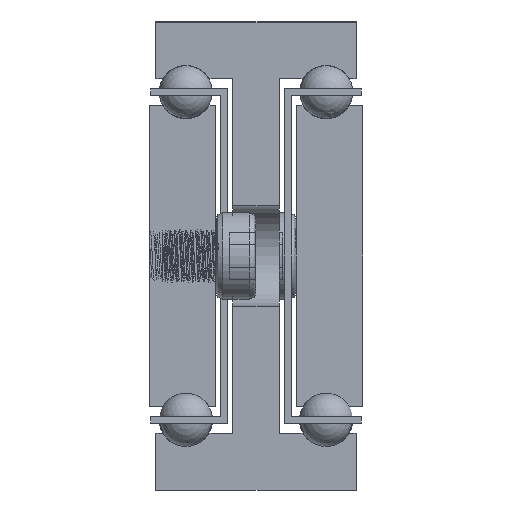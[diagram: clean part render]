
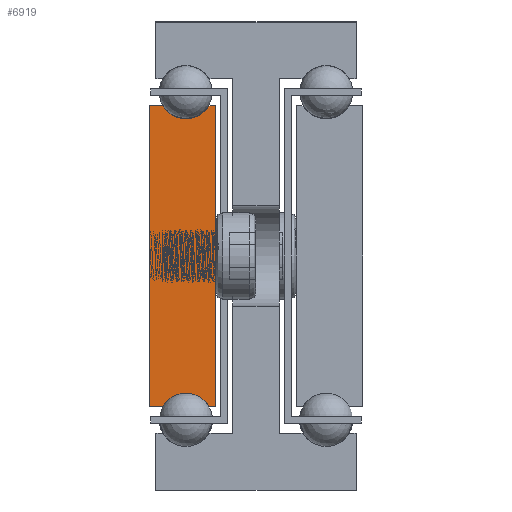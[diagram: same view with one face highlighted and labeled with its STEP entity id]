
A CAD part, front view. The second image highlights one B-rep face of the part: STEP entity #6919.
In plain terms, the highlighted planar face has unit normal (0, -1, 0).
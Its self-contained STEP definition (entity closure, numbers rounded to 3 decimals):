
#1033=PLANE('',#7456);
#1223=FACE_OUTER_BOUND('',#1731,.T.);
#1731=EDGE_LOOP('',(#5440,#5441,#5442,#5443,#5444,#5445,#5446,#5447));
#2542=LINE('',#97911,#2754);
#2545=LINE('',#97917,#2757);
#2549=LINE('',#97929,#2761);
#2552=LINE('',#97935,#2764);
#2555=LINE('',#97941,#2767);
#2559=LINE('',#97951,#2771);
#2754=VECTOR('',#8398,1.);
#2757=VECTOR('',#8403,1.);
#2761=VECTOR('',#8415,1.);
#2764=VECTOR('',#8420,1.);
#2767=VECTOR('',#8425,1.);
#2771=VECTOR('',#8437,1.);
#2931=CIRCLE('',#7447,4.);
#2933=CIRCLE('',#7453,4.);
#3450=VERTEX_POINT('',#97908);
#3451=VERTEX_POINT('',#97910);
#3453=VERTEX_POINT('',#97916);
#3455=VERTEX_POINT('',#97922);
#3457=VERTEX_POINT('',#97928);
#3459=VERTEX_POINT('',#97934);
#3461=VERTEX_POINT('',#97940);
#3463=VERTEX_POINT('',#97946);
#4272=EDGE_CURVE('',#3451,#3450,#2542,.T.);
#4275=EDGE_CURVE('',#3453,#3451,#2545,.T.);
#4278=EDGE_CURVE('',#3455,#3453,#2931,.T.);
#4281=EDGE_CURVE('',#3457,#3455,#2549,.T.);
#4284=EDGE_CURVE('',#3459,#3457,#2552,.T.);
#4287=EDGE_CURVE('',#3461,#3459,#2555,.T.);
#4290=EDGE_CURVE('',#3463,#3461,#2933,.T.);
#4293=EDGE_CURVE('',#3450,#3463,#2559,.T.);
#5440=ORIENTED_EDGE('',*,*,#4293,.T.);
#5441=ORIENTED_EDGE('',*,*,#4290,.T.);
#5442=ORIENTED_EDGE('',*,*,#4287,.T.);
#5443=ORIENTED_EDGE('',*,*,#4284,.T.);
#5444=ORIENTED_EDGE('',*,*,#4281,.T.);
#5445=ORIENTED_EDGE('',*,*,#4278,.T.);
#5446=ORIENTED_EDGE('',*,*,#4275,.T.);
#5447=ORIENTED_EDGE('',*,*,#4272,.T.);
#6919=ADVANCED_FACE('',(#1223),#1033,.T.);
#7447=AXIS2_PLACEMENT_3D('',#97923,#8409,#8410);
#7453=AXIS2_PLACEMENT_3D('',#97947,#8431,#8432);
#7456=AXIS2_PLACEMENT_3D('',#97953,#8440,#8441);
#8398=DIRECTION('',(0.,0.,-1.));
#8403=DIRECTION('',(-1.,0.,0.));
#8409=DIRECTION('center_axis',(0.,1.,0.));
#8410=DIRECTION('ref_axis',(-0.866,0.,-0.5));
#8415=DIRECTION('',(-1.,0.,0.));
#8420=DIRECTION('',(0.,0.,1.));
#8425=DIRECTION('',(1.,0.,0.));
#8431=DIRECTION('center_axis',(0.,1.,0.));
#8432=DIRECTION('ref_axis',(0.866,0.,0.5));
#8437=DIRECTION('',(1.,0.,0.));
#8440=DIRECTION('center_axis',(0.,-1.,0.));
#8441=DIRECTION('ref_axis',(1.,0.,0.));
#97908=CARTESIAN_POINT('',(-974.387,-1351.735,12.5));
#97910=CARTESIAN_POINT('',(-974.387,-1351.735,57.5));
#97911=CARTESIAN_POINT('',(-974.387,-1351.735,12.5));
#97916=CARTESIAN_POINT('',(-972.351,-1351.735,57.5));
#97917=CARTESIAN_POINT('',(-974.387,-1351.735,57.5));
#97922=CARTESIAN_POINT('',(-965.423,-1351.735,57.5));
#97923=CARTESIAN_POINT('Origin',(-968.887,-1351.735,59.5));
#97928=CARTESIAN_POINT('',(-964.387,-1351.735,57.5));
#97929=CARTESIAN_POINT('',(-965.423,-1351.735,57.5));
#97934=CARTESIAN_POINT('',(-964.387,-1351.735,12.5));
#97935=CARTESIAN_POINT('',(-964.387,-1351.735,57.5));
#97940=CARTESIAN_POINT('',(-965.423,-1351.735,12.5));
#97941=CARTESIAN_POINT('',(-964.387,-1351.735,12.5));
#97946=CARTESIAN_POINT('',(-972.351,-1351.735,12.5));
#97947=CARTESIAN_POINT('Origin',(-968.887,-1351.735,10.5));
#97951=CARTESIAN_POINT('',(-972.351,-1351.735,12.5));
#97953=CARTESIAN_POINT('Origin',(-969.393,-1351.735,35.));
